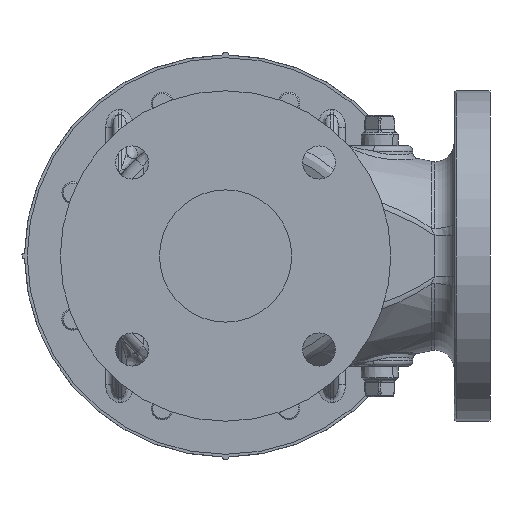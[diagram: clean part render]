
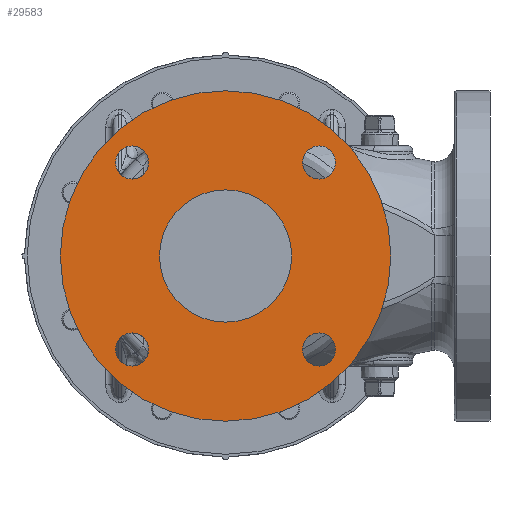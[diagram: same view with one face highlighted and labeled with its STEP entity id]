
A CAD part, front view. The second image highlights one B-rep face of the part: STEP entity #29583.
In plain terms, the highlighted planar face has unit normal (0, -1, 0).
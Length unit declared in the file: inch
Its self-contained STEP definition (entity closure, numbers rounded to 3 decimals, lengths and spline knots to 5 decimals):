
#395 = CARTESIAN_POINT ( 'NONE',  ( -3.75, -4., 0. ) ) ;
#464 = CIRCLE ( 'NONE', #23979, 0.375 ) ;
#608 = FACE_BOUND ( 'NONE', #29742, .T. ) ;
#662 = CARTESIAN_POINT ( 'NONE',  ( -2.12132, -4., 2.49632 ) ) ;
#1490 = EDGE_CURVE ( 'NONE', #9199, #36702, #36544, .T. ) ;
#1943 = AXIS2_PLACEMENT_3D ( 'NONE', #395, #30034, #39560 ) ;
#2997 = ORIENTED_EDGE ( 'NONE', *, *, #22762, .T. ) ;
#3542 = ORIENTED_EDGE ( 'NONE', *, *, #28936, .T. ) ;
#3618 = ORIENTED_EDGE ( 'NONE', *, *, #27164, .T. ) ;
#3908 = EDGE_CURVE ( 'NONE', #35287, #21228, #24265, .T. ) ;
#4655 = CARTESIAN_POINT ( 'NONE',  ( 0., -4., 3.75 ) ) ;
#5332 = CARTESIAN_POINT ( 'NONE',  ( -2.12132, -4., 2.12132 ) ) ;
#5587 = DIRECTION ( 'NONE',  ( 0., 1., 0. ) ) ;
#6473 = VERTEX_POINT ( 'NONE', #41963 ) ;
#6646 = DIRECTION ( 'NONE',  ( 0., 0., -1. ) ) ;
#6732 = AXIS2_PLACEMENT_3D ( 'NONE', #33658, #25161, #14392 ) ;
#7043 = EDGE_CURVE ( 'NONE', #33871, #6473, #15760, .T. ) ;
#7779 = DIRECTION ( 'NONE',  ( 0., 1., 0. ) ) ;
#7803 = CARTESIAN_POINT ( 'NONE',  ( 0., -4., 1.5 ) ) ;
#7892 = CIRCLE ( 'NONE', #24484, 1.5 ) ;
#8298 = DIRECTION ( 'NONE',  ( 0., 0., -1. ) ) ;
#8310 = DIRECTION ( 'NONE',  ( 0., 1., 0. ) ) ;
#8577 = EDGE_LOOP ( 'NONE', ( #33561, #19682 ) ) ;
#8721 = EDGE_CURVE ( 'NONE', #6473, #33871, #28080, .T. ) ;
#8724 = DIRECTION ( 'NONE',  ( 0., 1., 0. ) ) ;
#9088 = CARTESIAN_POINT ( 'NONE',  ( -2.12132, -4., 1.74632 ) ) ;
#9154 = CARTESIAN_POINT ( 'NONE',  ( 0., -4., 0. ) ) ;
#9199 = VERTEX_POINT ( 'NONE', #13935 ) ;
#9458 = AXIS2_PLACEMENT_3D ( 'NONE', #23954, #23326, #6646 ) ;
#9512 = EDGE_CURVE ( 'NONE', #32474, #35270, #19789, .T. ) ;
#11187 = VERTEX_POINT ( 'NONE', #13624 ) ;
#11248 = DIRECTION ( 'NONE',  ( 0., 0., -1. ) ) ;
#11360 = AXIS2_PLACEMENT_3D ( 'NONE', #31524, #28281, #11837 ) ;
#11837 = DIRECTION ( 'NONE',  ( 0., 0., 1. ) ) ;
#12818 = CARTESIAN_POINT ( 'NONE',  ( 2.12132, -4., 2.12132 ) ) ;
#12978 = CIRCLE ( 'NONE', #6732, 0.375 ) ;
#13062 = VERTEX_POINT ( 'NONE', #13103 ) ;
#13090 = DIRECTION ( 'NONE',  ( 0., 0., 1. ) ) ;
#13103 = CARTESIAN_POINT ( 'NONE',  ( 2.12132, -4., -2.49632 ) ) ;
#13624 = CARTESIAN_POINT ( 'NONE',  ( 2.12132, -4., -1.74632 ) ) ;
#13676 = CIRCLE ( 'NONE', #38544, 0.375 ) ;
#13806 = PLANE ( 'NONE',  #1943 ) ;
#13935 = CARTESIAN_POINT ( 'NONE',  ( 0., -4., -3.75 ) ) ;
#14392 = DIRECTION ( 'NONE',  ( 0., 0., -1. ) ) ;
#14910 = VERTEX_POINT ( 'NONE', #18853 ) ;
#15760 = CIRCLE ( 'NONE', #34409, 0.375 ) ;
#15918 = CARTESIAN_POINT ( 'NONE',  ( -2.12132, -4., -2.12132 ) ) ;
#16417 = FACE_BOUND ( 'NONE', #42071, .T. ) ;
#16428 = CIRCLE ( 'NONE', #35808, 0.375 ) ;
#16631 = FACE_BOUND ( 'NONE', #8577, .T. ) ;
#16645 = AXIS2_PLACEMENT_3D ( 'NONE', #9154, #8724, #18664 ) ;
#16665 = EDGE_CURVE ( 'NONE', #13062, #11187, #29828, .T. ) ;
#17279 = ORIENTED_EDGE ( 'NONE', *, *, #3908, .T. ) ;
#18246 = CARTESIAN_POINT ( 'NONE',  ( 2.12132, -4., -2.12132 ) ) ;
#18664 = DIRECTION ( 'NONE',  ( 0., 0., 1. ) ) ;
#18853 = CARTESIAN_POINT ( 'NONE',  ( -2.12132, -4., -1.74632 ) ) ;
#19151 = EDGE_LOOP ( 'NONE', ( #3542, #39646 ) ) ;
#19486 = ORIENTED_EDGE ( 'NONE', *, *, #9512, .T. ) ;
#19682 = ORIENTED_EDGE ( 'NONE', *, *, #31282, .T. ) ;
#19789 = CIRCLE ( 'NONE', #26696, 0.375 ) ;
#20780 = EDGE_CURVE ( 'NONE', #36702, #9199, #41727, .T. ) ;
#20846 = AXIS2_PLACEMENT_3D ( 'NONE', #18246, #31236, #8298 ) ;
#21228 = VERTEX_POINT ( 'NONE', #29717 ) ;
#22058 = CARTESIAN_POINT ( 'NONE',  ( -2.12132, -4., 2.12132 ) ) ;
#22762 = EDGE_CURVE ( 'NONE', #21228, #35287, #7892, .T. ) ;
#23262 = DIRECTION ( 'NONE',  ( 0., 1., 0. ) ) ;
#23326 = DIRECTION ( 'NONE',  ( 0., 1., 0. ) ) ;
#23798 = CARTESIAN_POINT ( 'NONE',  ( -2.12132, -4., -2.12132 ) ) ;
#23954 = CARTESIAN_POINT ( 'NONE',  ( 2.12132, -4., 2.12132 ) ) ;
#23979 = AXIS2_PLACEMENT_3D ( 'NONE', #5332, #26526, #39716 ) ;
#24265 = CIRCLE ( 'NONE', #16645, 1.5 ) ;
#24484 = AXIS2_PLACEMENT_3D ( 'NONE', #34475, #8310, #31672 ) ;
#25161 = DIRECTION ( 'NONE',  ( 0., 1., 0. ) ) ;
#26232 = DIRECTION ( 'NONE',  ( 0., 1., 0. ) ) ;
#26526 = DIRECTION ( 'NONE',  ( 0., 1., 0. ) ) ;
#26696 = AXIS2_PLACEMENT_3D ( 'NONE', #22058, #5587, #28529 ) ;
#27164 = EDGE_CURVE ( 'NONE', #35270, #32474, #464, .T. ) ;
#27307 = DIRECTION ( 'NONE',  ( 0., 1., 0. ) ) ;
#28080 = CIRCLE ( 'NONE', #9458, 0.375 ) ;
#28281 = DIRECTION ( 'NONE',  ( 0., 1., 0. ) ) ;
#28507 = EDGE_LOOP ( 'NONE', ( #17279, #2997 ) ) ;
#28529 = DIRECTION ( 'NONE',  ( 0., 0., -1. ) ) ;
#28936 = EDGE_CURVE ( 'NONE', #11187, #13062, #12978, .T. ) ;
#29583 = ADVANCED_FACE ( 'NONE', ( #16631, #30250, #608, #16417, #29624, #29838 ), #13806, .T. ) ;
#29624 = FACE_BOUND ( 'NONE', #28507, .T. ) ;
#29717 = CARTESIAN_POINT ( 'NONE',  ( 0., -4., -1.5 ) ) ;
#29742 = EDGE_LOOP ( 'NONE', ( #42523, #41111 ) ) ;
#29828 = CIRCLE ( 'NONE', #20846, 0.375 ) ;
#29838 = FACE_OUTER_BOUND ( 'NONE', #32317, .T. ) ;
#29950 = CARTESIAN_POINT ( 'NONE',  ( 0., -4., 0. ) ) ;
#30034 = DIRECTION ( 'NONE',  ( 0., -1., 0. ) ) ;
#30250 = FACE_BOUND ( 'NONE', #19151, .T. ) ;
#31236 = DIRECTION ( 'NONE',  ( 0., 1., 0. ) ) ;
#31282 = EDGE_CURVE ( 'NONE', #41097, #14910, #13676, .T. ) ;
#31524 = CARTESIAN_POINT ( 'NONE',  ( 0., -4., 0. ) ) ;
#31543 = EDGE_CURVE ( 'NONE', #14910, #41097, #16428, .T. ) ;
#31672 = DIRECTION ( 'NONE',  ( 0., 0., 1. ) ) ;
#31686 = CARTESIAN_POINT ( 'NONE',  ( -2.12132, -4., -2.49632 ) ) ;
#32007 = ORIENTED_EDGE ( 'NONE', *, *, #1490, .F. ) ;
#32317 = EDGE_LOOP ( 'NONE', ( #34835, #32007 ) ) ;
#32474 = VERTEX_POINT ( 'NONE', #9088 ) ;
#33561 = ORIENTED_EDGE ( 'NONE', *, *, #31543, .T. ) ;
#33658 = CARTESIAN_POINT ( 'NONE',  ( 2.12132, -4., -2.12132 ) ) ;
#33871 = VERTEX_POINT ( 'NONE', #37325 ) ;
#34409 = AXIS2_PLACEMENT_3D ( 'NONE', #12818, #26232, #35342 ) ;
#34475 = CARTESIAN_POINT ( 'NONE',  ( 0., -4., 0. ) ) ;
#34835 = ORIENTED_EDGE ( 'NONE', *, *, #20780, .F. ) ;
#35163 = AXIS2_PLACEMENT_3D ( 'NONE', #29950, #23262, #13090 ) ;
#35270 = VERTEX_POINT ( 'NONE', #662 ) ;
#35287 = VERTEX_POINT ( 'NONE', #7803 ) ;
#35342 = DIRECTION ( 'NONE',  ( 0., 0., -1. ) ) ;
#35808 = AXIS2_PLACEMENT_3D ( 'NONE', #23798, #7779, #11248 ) ;
#36544 = CIRCLE ( 'NONE', #35163, 3.75 ) ;
#36702 = VERTEX_POINT ( 'NONE', #4655 ) ;
#37325 = CARTESIAN_POINT ( 'NONE',  ( 2.12132, -4., 1.74632 ) ) ;
#37905 = DIRECTION ( 'NONE',  ( 0., 0., -1. ) ) ;
#38544 = AXIS2_PLACEMENT_3D ( 'NONE', #15918, #27307, #37905 ) ;
#39560 = DIRECTION ( 'NONE',  ( 0., 0., -1. ) ) ;
#39646 = ORIENTED_EDGE ( 'NONE', *, *, #16665, .T. ) ;
#39716 = DIRECTION ( 'NONE',  ( 0., 0., -1. ) ) ;
#41097 = VERTEX_POINT ( 'NONE', #31686 ) ;
#41111 = ORIENTED_EDGE ( 'NONE', *, *, #7043, .T. ) ;
#41727 = CIRCLE ( 'NONE', #11360, 3.75 ) ;
#41963 = CARTESIAN_POINT ( 'NONE',  ( 2.12132, -4., 2.49632 ) ) ;
#42071 = EDGE_LOOP ( 'NONE', ( #3618, #19486 ) ) ;
#42523 = ORIENTED_EDGE ( 'NONE', *, *, #8721, .T. ) ;
